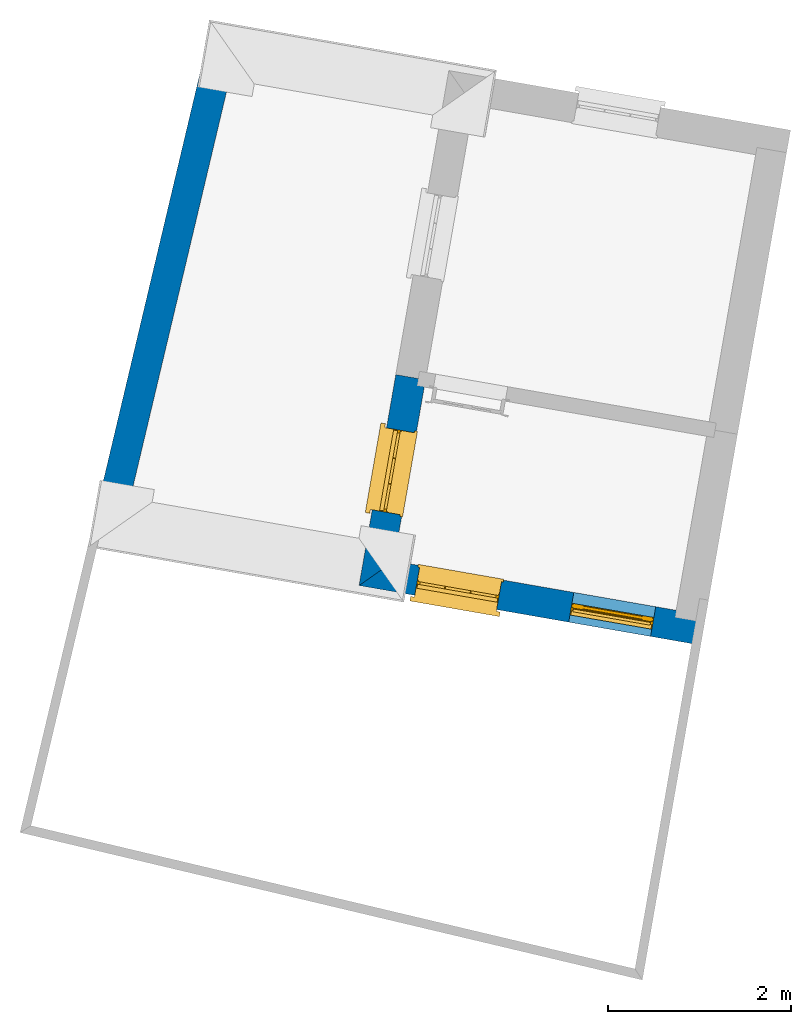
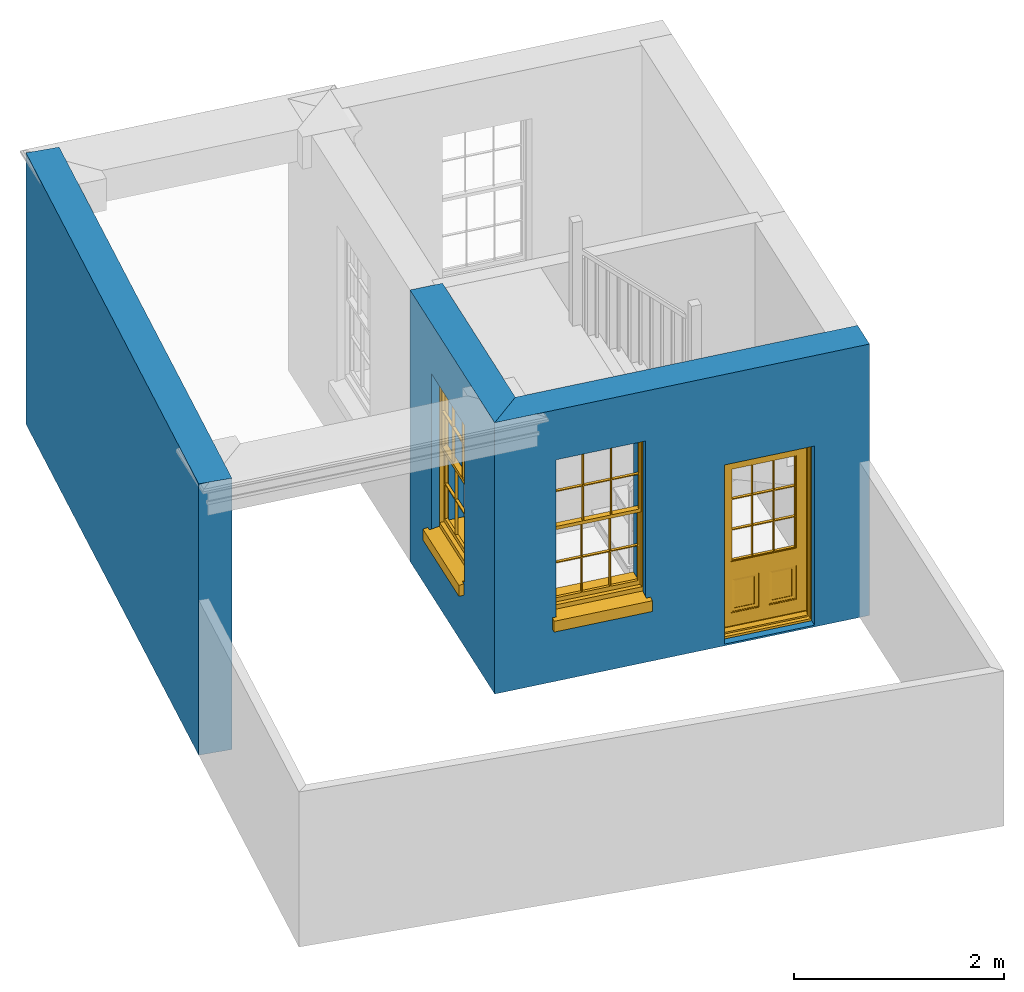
# One storey, part 2 of 4: 3 walls, 2 windows, 1 door, 3 openings.
"""IFC4 building model written with IfcOpenShell, lengths in metres."""

from ifc_helpers import new_model, si_unit, frame, origin, origin_with_axes, place, context, subcontext, project, spatial, polyline, outline, extrude, faceted_brep, source, transform, mapped, material, layer, layer_set, layer_usage, type_object, type_shapes, element, fill, save


model = new_model("IFC4")

# Units and contexts
model_context = context("Model", 3, world=origin_with_axes())
body_context = subcontext(model_context, "Body", "Model", "MODEL_VIEW")
ifc_project = project(units=[si_unit("PLANEANGLEUNIT", "RADIAN"), si_unit("MASSUNIT", "GRAM", prefix="KILO"), si_unit("FORCEUNIT", "NEWTON", prefix="KILO"), si_unit("LENGTHUNIT", "METRE"), si_unit("AREAUNIT", "SQUARE_METRE"), si_unit("VOLUMEUNIT", "CUBIC_METRE")], contexts=[model_context, model_context])

# Sites, building, storey
site_1_placement = place(None, origin_with_axes())
site_1 = spatial("IfcSite", under=ifc_project, at=site_1_placement, Name="Tamar")
site_2_placement = place(site_1_placement, origin_with_axes())
site_2 = spatial("IfcSite", under=site_1, at=site_2_placement, Name="Site plot-26", CompositionType="ELEMENT")
building_placement = place(None, origin_with_axes())
building = spatial("IfcBuilding", under=site_2, at=building_placement, Name="Building plot-26", CompositionType="ELEMENT")
storey_placement = place(None, frame((0.0, 0.0, 26.0), z_axis=(0.0, 0.0, 1.0), x_axis=(1.0, 0.0, 0.0)))
storey = spatial("IfcBuildingStorey", under=building, at=storey_placement, Name="plot-26 0", CompositionType="ELEMENT", Elevation=26.0)

# Wall, opening, window
ifc_material_1 = material(Name="Masonry")
ifc_layer_1 = layer(ifc_material_1, 0.33, ventilated=False)
ifc_layer_set_1 = layer_set([ifc_layer_1], Name="exterior_0.08_0.25")
ifc_layer_usage_1 = layer_usage(ifc_layer_set_1, "AXIS2", "POSITIVE", -0.25)
wall_type_1 = type_object("IfcWallType", Name="exterior_0.08_0.25", PredefinedType="SOLIDWALL", material=ifc_layer_set_1)
wall_1_placement = place(storey_placement, frame((287.813762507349, 272.910504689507, 0.0), z_axis=(0.0, 0.0, 1.0), x_axis=(-0.171788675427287, -0.985133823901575, 0.0)))
wall_1 = element("IfcWall", 1, at=wall_1_placement, inside=storey, type_object=wall_type_1, material=ifc_layer_usage_1, Name="exterior", context=body_context, shape_type="SweptSolid", body=[
    extrude(outline(polyline([(4.07704572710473e-14, 0.0800000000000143), (-1.01903165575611e-13, -0.250000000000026), (2.34387961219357, -0.250000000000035), (2.01387961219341, 0.0799999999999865), (4.07704572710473e-14, 0.0800000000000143)])), origin_with_axes(), (0.0, 0.0, 1.0), 3.15),
])
opening_1_placement = place(wall_1_placement, frame((0.591939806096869, 0.0, 0.75)))
opening_1 = element("IfcOpeningElement", 2, at=opening_1_placement, cuts=wall_1, Name="My Opening", ObjectType="Opening", context=body_context, shape_type="SweptSolid", body=[
    extrude(outline(polyline([(0.0, -0.270000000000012), (0.910000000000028, -0.269999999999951), (0.910000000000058, 1.09999999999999), (2.99760216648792e-14, 1.09999999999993), (0.0, -0.270000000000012)])), origin_with_axes(), (0.0, 0.0, 1.0), 1.82),
])
window_type = type_object("IfcWindowType", Name="sash_big", PartitioningType="DOUBLE_PANEL_HORIZONTAL", PredefinedType="NOTDEFINED")
shared_shape_1 = source(origin(), body_context, "Body", "Brep", [
    faceted_brep([(0.033125, 0.145, 0.975209), (0.01, 0.145, 0.975209), (0.033125, 0.145, 1.376042), (0.876875, 0.145, 0.975209), (0.876875, 0.145, 1.376042), (0.9, 0.145, 0.975209), (0.876875, 0.145, 1.386042), (0.876875, 0.145, 1.786875), (0.9, 0.145, 1.81), (0.033125, 0.145, 1.786875), (0.033125, 0.145, 1.386042), (0.01, 0.145, 1.81), (0.876875, 0.115, 1.376042), (0.876875, 0.115, 0.975209), (0.9, 0.115, 0.937083), (0.033125, 0.115, 1.786875), (0.01, 0.115, 1.81), (0.033125, 0.115, 1.386042), (0.01, 0.115, 0.937083), (0.033125, 0.115, 0.975209), (0.033125, 0.115, 1.376042), (0.876875, 0.115, 1.786875), (0.876875, 0.115, 1.386042), (0.9, 0.115, 1.81), (0.033125, 0.145, 0.937083), (0.01, 0.145, 0.937083), (0.033125, 0.145, 0.53625), (0.876875, 0.145, 0.937083), (0.876875, 0.145, 0.53625), (0.9, 0.145, 0.937083), (0.876875, 0.145, 0.52625), (0.876875, 0.145, 0.125417), (0.9, 0.145, 0.077167), (0.033125, 0.145, 0.125417), (0.033125, 0.145, 0.52625), (0.01, 0.145, 0.077167), (-0.0425, 0.0, 0.01), (-0.0425, -0.05, 0.001667), (0.0, 0.0, 0.01), (0.9525, 0.0, 0.01), (0.91, 0.0, 0.01), (0.9525, -0.05, 0.001667), (-0.02, 0.33, 0.077167), (0.0, 0.33, 0.077167), (-0.02, 0.36, 0.077167), (0.0, 0.19, 0.077167), (0.01, 0.19, 0.077167), (0.91, 0.19, 0.077167), (0.91, 0.33, 0.077167), (0.9, 0.19, 0.077167), (0.93, 0.33, 0.077167), (0.93, 0.36, 0.077167), (0.01, 0.175, 0.975209), (0.9, 0.175, 0.975209), (0.876875, 0.175, 0.125417), (0.876875, 0.175, 0.52625), (0.9, 0.175, 0.077167), (0.876875, 0.175, 0.53625), (0.876875, 0.175, 0.937083), (0.033125, 0.175, 0.125417), (0.01, 0.175, 0.077167), (0.033125, 0.175, 0.52625), (0.033125, 0.175, 0.937083), (0.033125, 0.175, 0.53625), (-0.02, 0.33, 0.052167), (-0.02, 0.36, 0.052167), (0.93, 0.36, 0.052167), (0.93, 0.33, 0.052167), (0.91, 0.33, 0.052167), (0.0, 0.33, 0.052167), (0.91, 0.1, 0.026667), (0.0, 0.1, 0.026667), (-0.0425, -0.05, -0.123333), (0.9525, -0.05, -0.123333), (-0.0425, 0.0, -0.123333), (0.9525, 0.0, -0.123333), (0.01, 0.19, 1.81), (0.9, 0.19, 1.81), (0.0, 0.19, 1.82), (0.91, 0.19, 1.82), (0.01, 0.1, 0.077167), (0.9, 0.1, 0.077167), (0.592292, 0.145, 0.125417), (0.592292, 0.175, 0.125417), (0.317708, 0.175, 0.125417), (0.317708, 0.145, 0.125417), (0.592292, 0.145, 0.53625), (0.317708, 0.145, 0.53625), (0.317708, 0.145, 0.52625), (0.592292, 0.145, 0.52625), (0.592292, 0.175, 0.53625), (0.317708, 0.175, 0.53625), (0.592292, 0.115, 1.386042), (0.592292, 0.145, 1.386042), (0.317708, 0.145, 1.386042), (0.317708, 0.115, 1.386042), (0.317708, 0.115, 1.376042), (0.592292, 0.115, 1.376042), (0.317708, 0.145, 1.376042), (0.592292, 0.145, 1.376042), (0.602292, 0.115, 1.376042), (0.592292, 0.115, 0.975209), (0.602292, 0.115, 0.975209), (0.602292, 0.145, 0.975209), (0.592292, 0.145, 0.975209), (0.602292, 0.145, 1.376042), (0.602292, 0.175, 0.53625), (0.602292, 0.145, 0.53625), (0.317708, 0.175, 0.52625), (0.307708, 0.175, 0.125417), (0.307708, 0.175, 0.52625), (0.602292, 0.175, 0.52625), (0.602292, 0.175, 0.125417), (0.592292, 0.175, 0.52625), (0.307708, 0.175, 0.53625), (0.317708, 0.175, 0.937083), (0.307708, 0.175, 0.937083), (0.602292, 0.175, 0.937083), (0.592292, 0.175, 0.937083), (0.307708, 0.145, 0.52625), (0.307708, 0.145, 0.125417), (0.307708, 0.145, 0.53625), (0.307708, 0.145, 0.937083), (0.592292, 0.145, 0.937083), (0.317708, 0.145, 0.937083), (0.602292, 0.145, 0.937083), (0.602292, 0.145, 0.52625), (0.602292, 0.145, 0.125417), (0.307708, 0.115, 1.386042), (0.307708, 0.115, 1.376042), (0.307708, 0.115, 0.975209), (0.317708, 0.115, 0.975209), (0.317708, 0.115, 1.786875), (0.307708, 0.115, 1.786875), (0.602292, 0.115, 1.786875), (0.592292, 0.115, 1.786875), (0.602292, 0.115, 1.386042), (0.602292, 0.145, 1.386042), (0.307708, 0.145, 1.386042), (0.307708, 0.145, 1.786875), (0.317708, 0.145, 1.786875), (0.592292, 0.145, 1.786875), (0.602292, 0.145, 1.786875), (0.307708, 0.145, 1.376042), (0.317708, 0.145, 0.975209), (0.307708, 0.145, 0.975209), (0.91, 0.1, 1.82), (0.9, 0.1, 1.81), (0.01, 0.1, 1.81), (0.0, 0.1, 1.82), (0.91, 0.0, 0.0), (0.0, 0.0, 0.0), (0.91, 0.33, 0.0), (0.0, 0.33, 0.0)], [[[0, 1, 2]], [[3, 4, 5]], [[6, 7, 8]], [[9, 10, 11]], [[12, 13, 14]], [[15, 16, 17]], [[18, 19, 20]], [[21, 22, 23]], [[24, 25, 26]], [[27, 28, 29]], [[30, 31, 32]], [[33, 34, 35]], [[14, 27, 29]], [[25, 24, 18]], [[36, 37, 38]], [[39, 40, 41]], [[42, 43, 44]], [[45, 46, 43]], [[47, 48, 49]], [[50, 51, 48]], [[1, 0, 52]], [[5, 53, 3]], [[54, 55, 56]], [[57, 58, 53]], [[59, 60, 61]], [[62, 63, 52]], [[48, 43, 46, 49]], [[51, 44, 43, 48]], [[64, 42, 44, 65]], [[65, 44, 51, 66]], [[66, 51, 50, 67]], [[65, 66, 68, 69]], [[60, 56, 49, 46]], [[70, 71, 38, 40]], [[37, 41, 40, 38]], [[37, 72, 73, 41]], [[74, 75, 73, 72]], [[8, 11, 76, 77]], [[76, 78, 79, 77]], [[32, 35, 80, 81]], [[81, 80, 71, 70]], [[82, 83, 84, 85]], [[86, 87, 88, 89]], [[86, 90, 91, 87]], [[92, 93, 94, 95]], [[92, 95, 96, 97]], [[96, 98, 99, 97]], [[100, 97, 101, 102]], [[103, 104, 99, 105]], [[97, 99, 104, 101]], [[102, 103, 105, 100]], [[28, 57, 106, 107]], [[108, 84, 109, 110]], [[111, 112, 83, 113]], [[114, 110, 61, 63]], [[90, 113, 108, 91]], [[115, 91, 114, 116]], [[117, 106, 90, 118]], [[111, 106, 57, 55]], [[119, 110, 109, 120]], [[34, 61, 110, 119]], [[89, 113, 83, 82]], [[88, 108, 113, 89]], [[85, 84, 108, 88]], [[121, 114, 63, 26]], [[122, 116, 114, 121]], [[123, 118, 90, 86]], [[87, 91, 115, 124]], [[107, 106, 117, 125]], [[126, 111, 55, 30]], [[127, 112, 111, 126]], [[126, 30, 28, 107]], [[88, 119, 120, 85]], [[126, 89, 82, 127]], [[125, 123, 86, 107]], [[121, 26, 34, 119]], [[124, 122, 121, 87]], [[128, 17, 20, 129]], [[96, 129, 130, 131]], [[132, 133, 128, 95]], [[134, 135, 92, 136]], [[100, 12, 22, 136]], [[137, 6, 4, 105]], [[94, 138, 139, 140]], [[137, 93, 141, 142]], [[99, 98, 94, 93]], [[143, 2, 10, 138]], [[144, 145, 143, 98]], [[129, 143, 145, 130]], [[20, 2, 143, 129]], [[131, 144, 98, 96]], [[128, 138, 10, 17]], [[133, 139, 138, 128]], [[135, 141, 93, 92]], [[95, 94, 140, 132]], [[22, 6, 137, 136]], [[136, 137, 142, 134]], [[100, 105, 4, 12]], [[107, 86, 89, 126]], [[106, 111, 113, 90]], [[91, 108, 110, 114]], [[87, 121, 119, 88]], [[97, 100, 136, 92]], [[129, 96, 95, 128]], [[98, 143, 138, 94]], [[105, 99, 93, 137]], [[131, 101, 104, 144]], [[124, 115, 118, 123]], [[132, 140, 141, 135]], [[120, 109, 59, 33]], [[15, 9, 139, 133]], [[134, 142, 7, 21]], [[31, 54, 112, 127]], [[36, 74, 72, 37]], [[39, 41, 73, 75]], [[18, 14, 101, 131]], [[23, 16, 132, 135]], [[83, 56, 60, 84]], [[52, 53, 118, 115]], [[53, 52, 144, 104]], [[11, 8, 141, 140]], [[14, 18, 124, 123]], [[2, 1, 11, 10]], [[8, 5, 4, 6]], [[57, 53, 56, 55]], [[60, 52, 63, 61]], [[26, 25, 35, 34]], [[32, 29, 28, 30]], [[14, 23, 22, 12]], [[18, 20, 17, 16]], [[19, 0, 2, 20]], [[17, 10, 9, 15]], [[12, 4, 3, 13]], [[21, 7, 6, 22]], [[27, 58, 57, 28]], [[30, 55, 54, 31]], [[33, 59, 61, 34]], [[26, 63, 62, 24]], [[5, 8, 77, 53]], [[76, 11, 1, 52]], [[46, 45, 78, 76]], [[49, 77, 79, 47]], [[70, 146, 147, 81]], [[71, 80, 148, 149]], [[19, 130, 145, 0]], [[102, 13, 3, 103]], [[116, 122, 24, 62]], [[29, 32, 81, 14]], [[80, 35, 25, 18]], [[60, 46, 76, 52]], [[77, 49, 56, 53]], [[23, 14, 81, 147]], [[16, 148, 80, 18]], [[35, 85, 120]], [[120, 33, 35]], [[127, 82, 32]], [[32, 31, 127]], [[32, 82, 85, 35]], [[102, 101, 14]], [[14, 13, 102]], [[18, 131, 130]], [[130, 19, 18]], [[134, 21, 23]], [[23, 135, 134]], [[16, 15, 133]], [[133, 132, 16]], [[11, 140, 139]], [[139, 9, 11]], [[142, 141, 8]], [[8, 7, 142]], [[23, 147, 148, 16]], [[146, 149, 148, 147]], [[52, 115, 116]], [[116, 62, 52]], [[118, 53, 117]], [[58, 117, 53]], [[27, 125, 117, 58]], [[56, 83, 112]], [[112, 54, 56]], [[109, 84, 60]], [[60, 59, 109]], [[125, 27, 14]], [[14, 123, 125]], [[122, 124, 18]], [[18, 24, 122]], [[145, 144, 52]], [[52, 0, 145]], [[103, 3, 53]], [[53, 104, 103]], [[79, 78, 149, 146]], [[78, 45, 71, 149]], [[146, 70, 47, 79]], [[150, 75, 74, 151]], [[68, 66, 67]], [[48, 68, 67, 50]], [[69, 64, 65]], [[42, 64, 69, 43]], [[69, 68, 152, 153]], [[70, 68, 48, 47]], [[150, 152, 68, 70]], [[43, 69, 71, 45]], [[69, 153, 151, 71]], [[152, 150, 151, 153]], [[38, 151, 74, 36]], [[71, 151, 38]], [[39, 75, 150, 40]], [[40, 150, 70]]]),
])
type_shapes(window_type, [shared_shape_1])
window_1_placement = place(storey_placement, frame((287.446087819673, 272.373747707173, 0.75), z_axis=(0.0, 0.0, 1.0), x_axis=(-0.156327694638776, -0.89647177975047, 0.0)))
window_1 = element("IfcWindow", 3, at=window_1_placement, inside=storey, type_object=window_type, Name="circulation outside window", OverallHeight=1.82, OverallWidth=0.91, context=body_context, shape_type="MappedRepresentation", body=[
    mapped(shared_shape_1, transform((0.0, 0.0, 0.0), scale=1.0)),
])
fill(opening_1, window_1)

# Wall, openings, door, window
wall_2_placement = place(storey_placement, frame((287.454057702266, 270.847753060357, 0.0), z_axis=(0.0, 0.0, 1.0), x_axis=(0.985133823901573, -0.171788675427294, 0.0)))
wall_2 = element("IfcWall", 4, at=wall_2_placement, inside=storey, type_object=wall_type_1, material=ifc_layer_usage_1, Name="exterior", context=body_context, shape_type="SweptSolid", body=[
    extrude(outline(polyline([(0.0799999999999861, 0.0800000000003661), (-0.250000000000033, -0.249999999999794), (3.54617851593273, -0.249999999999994), (3.5461785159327, 0.0800000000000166), (0.0799999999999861, 0.0800000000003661)])), origin_with_axes(), (0.0, 0.0, 1.0), 3.15),
])
opening_2_placement = place(wall_2_placement, frame((0.369044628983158, 0.0, 0.75)))
opening_2 = element("IfcOpeningElement", 5, at=opening_2_placement, cuts=wall_2, Name="My Opening", ObjectType="Opening", context=body_context, shape_type="SweptSolid", body=[
    extrude(outline(polyline([(0.0, -0.270000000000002), (0.910000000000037, -0.26999999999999), (0.910000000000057, 1.09999999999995), (1.95399252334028e-14, 1.09999999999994), (0.0, -0.270000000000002)])), origin_with_axes(), (0.0, 0.0, 1.0), 1.82),
])
opening_3_placement = place(wall_2_placement, frame((2.07904462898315, 0.0, 0.0199999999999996)))
opening_3 = element("IfcOpeningElement", 6, at=opening_3_placement, cuts=wall_2, Name="My Opening", ObjectType="Opening", context=body_context, shape_type="SweptSolid", body=[
    extrude(outline(polyline([(0.0, -0.269999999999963), (0.910000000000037, -0.269999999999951), (0.910000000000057, 1.09999999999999), (1.95399252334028e-14, 1.09999999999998), (0.0, -0.269999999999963)])), origin_with_axes(), (0.0, 0.0, 1.0), 2.08),
])
door_type = type_object("IfcDoorType", Name="door_panelled", OperationType="SINGLE_SWING_LEFT", PredefinedType="NOTDEFINED")
shared_shape_2 = source(origin(), body_context, "Body", "Brep", [
    faceted_brep([(0.545, 0.195, 0.265), (0.745, 0.195, 0.265), (0.745, 0.2, 0.265), (0.545, 0.2, 0.265), (0.745, 0.2, 0.58), (0.545, 0.2, 0.58), (0.545, 0.195, 0.58), (0.515, 0.19, 0.235), (0.775, 0.19, 0.235), (0.745, 0.195, 0.58), (0.515, 0.19, 0.61), (0.515, 0.185, 0.235), (0.775, 0.185, 0.235), (0.775, 0.19, 0.61), (0.515, 0.185, 0.61), (0.785, 0.185, 0.225), (0.505, 0.185, 0.225), (0.775, 0.185, 0.61), (0.505, 0.185, 0.62), (0.785, 0.185, 0.62), (0.505, 0.18, 0.225), (0.785, 0.18, 0.225), (0.505, 0.18, 0.62), (0.785, 0.18, 0.62), (0.883, 0.18, 0.075), (0.898, 0.18, 0.075), (0.405, 0.18, 0.62), (0.405, 0.18, 0.225), (0.027, 0.18, 0.075), (0.785, 0.18, 0.82), (0.125, 0.18, 0.82), (0.405, 0.185, 0.62), (0.405, 0.185, 0.225), (0.898, 0.18, 2.068), (0.027, 0.17, 0.075), (0.883, 0.17, 0.075), (0.125, 0.18, 0.225), (0.012, 0.18, 0.075), (0.785, 0.19, 0.82), (0.125, 0.19, 0.82), (0.125, 0.18, 0.62), (0.125, 0.185, 0.62), (0.395, 0.185, 0.61), (0.395, 0.185, 0.235), (0.125, 0.185, 0.225), (0.785, 0.18, 1.895), (0.027, 0.14, 0.045), (0.883, 0.14, 0.045), (0.558333, 0.19, 0.83), (0.351667, 0.19, 0.83), (0.125, 0.18, 1.895), (0.125, 0.19, 1.895), (0.785, 0.19, 1.895), (0.012, 0.18, 2.068), (0.135, 0.185, 0.61), (0.395, 0.19, 0.61), (0.395, 0.19, 0.235), (0.135, 0.185, 0.235), (0.027, 0.14, 0.027), (0.883, 0.14, 0.027), (0.568333, 0.19, 0.83), (0.558333, 0.22, 0.83), (0.351667, 0.22, 0.83), (0.341667, 0.19, 0.83), (0.135, 0.19, 1.185), (0.135, 0.19, 1.53), (0.775, 0.19, 1.53), (0.775, 0.19, 1.185), (0.135, 0.19, 0.61), (0.365, 0.195, 0.58), (0.365, 0.195, 0.265), (0.135, 0.19, 0.235), (0.568333, 0.19, 1.175), (0.558333, 0.19, 1.175), (0.775, 0.19, 0.83), (0.558333, 0.22, 1.175), (0.785, 0.22, 0.82), (0.125, 0.22, 0.82), (0.351667, 0.22, 1.175), (0.351667, 0.19, 1.175), (0.341667, 0.19, 1.175), (0.135, 0.19, 0.83), (0.135, 0.19, 1.175), (0.135, 0.22, 1.185), (0.135, 0.22, 1.53), (0.135, 0.19, 1.54), (0.351667, 0.19, 1.885), (0.558333, 0.19, 1.885), (0.775, 0.22, 1.53), (0.775, 0.22, 1.185), (0.775, 0.19, 1.175), (0.775, 0.19, 1.54), (0.165, 0.195, 0.58), (0.365, 0.2, 0.58), (0.365, 0.2, 0.265), (0.165, 0.195, 0.265), (0.568333, 0.22, 0.83), (0.568333, 0.22, 1.175), (0.568333, 0.19, 1.185), (0.558333, 0.19, 1.185), (0.775, 0.22, 0.83), (0.785, 0.23, 0.82), (0.125, 0.23, 0.82), (0.341667, 0.22, 0.83), (0.341667, 0.22, 1.175), (0.351667, 0.19, 1.185), (0.341667, 0.19, 1.185), (0.135, 0.22, 0.83), (0.341667, 0.22, 1.185), (0.125, 0.22, 1.895), (0.341667, 0.22, 1.53), (0.341667, 0.19, 1.53), (0.135, 0.19, 1.885), (0.341667, 0.19, 1.54), (0.341667, 0.19, 1.885), (0.558333, 0.22, 1.885), (0.351667, 0.22, 1.885), (0.568333, 0.19, 1.885), (0.785, 0.22, 1.895), (0.568333, 0.22, 1.185), (0.568333, 0.19, 1.53), (0.568333, 0.22, 1.53), (0.568333, 0.19, 1.54), (0.775, 0.19, 1.885), (0.165, 0.2, 0.58), (0.165, 0.2, 0.265), (0.775, 0.22, 1.175), (0.558333, 0.19, 1.53), (0.351667, 0.22, 1.185), (0.558333, 0.22, 1.185), (0.505, 0.23, 0.62), (0.405, 0.23, 0.62), (0.125, 0.23, 1.895), (0.785, 0.23, 1.895), (0.351667, 0.19, 1.53), (0.135, 0.22, 1.175), (0.135, 0.22, 1.54), (0.341667, 0.22, 1.54), (0.135, 0.22, 1.885), (0.351667, 0.19, 1.54), (0.558333, 0.22, 1.54), (0.558333, 0.19, 1.54), (0.351667, 0.22, 1.54), (0.775, 0.22, 1.54), (0.568333, 0.22, 1.54), (0.775, 0.22, 1.885), (0.558333, 0.22, 1.53), (0.405, 0.23, 0.225), (0.505, 0.23, 0.225), (0.125, 0.23, 0.62), (0.785, 0.23, 0.62), (0.012, 0.23, 2.068), (0.898, 0.23, 2.068), (0.351667, 0.22, 1.53), (0.341667, 0.22, 1.885), (0.568333, 0.22, 1.885), (0.405, 0.225, 0.225), (0.405, 0.225, 0.62), (0.505, 0.225, 0.62), (0.505, 0.225, 0.225), (0.898, 0.23, 0.027), (0.012, 0.23, 0.027), (0.125, 0.225, 0.62), (0.785, 0.225, 0.62), (0.395, 0.225, 0.235), (0.395, 0.225, 0.61), (0.125, 0.23, 0.225), (0.125, 0.225, 0.225), (0.515, 0.225, 0.61), (0.515, 0.225, 0.235), (0.785, 0.23, 0.225), (0.785, 0.225, 0.225), (0.135, 0.225, 0.61), (0.775, 0.225, 0.61), (0.135, 0.225, 0.235), (0.395, 0.22, 0.235), (0.395, 0.22, 0.61), (0.515, 0.22, 0.61), (0.515, 0.22, 0.235), (0.775, 0.225, 0.235), (0.135, 0.22, 0.61), (0.775, 0.22, 0.61), (0.135, 0.22, 0.235), (0.365, 0.215, 0.265), (0.365, 0.215, 0.58), (0.545, 0.215, 0.58), (0.545, 0.215, 0.265), (0.775, 0.22, 0.235), (0.165, 0.215, 0.58), (0.745, 0.215, 0.58), (0.165, 0.215, 0.265), (0.365, 0.21, 0.58), (0.365, 0.21, 0.265), (0.545, 0.21, 0.58), (0.545, 0.21, 0.265), (0.745, 0.215, 0.265), (0.165, 0.21, 0.58), (0.745, 0.21, 0.58), (0.165, 0.21, 0.265), (0.745, 0.21, 0.265), (0.885, 0.178, 0.025), (0.025, 0.178, 0.025), (0.025, 0.15, 0.025), (0.885, 0.15, 0.025), (0.9, 0.23, 0.025), (0.01, 0.23, 0.025), (0.9, 0.178, 0.025), (0.91, 0.23, 0.0), (0.0, 0.23, 0.0), (0.01, 0.178, 0.025), (0.9, 0.178, 2.07), (0.9, 0.23, 2.07), (0.885, 0.178, 2.055), (0.91, 0.23, 2.08), (0.01, 0.23, 2.07), (0.0, 0.23, 2.08), (0.01, 0.178, 2.07), (0.025, 0.178, 2.055), (0.0, 0.1, 2.08), (0.91, 0.1, 2.08), (0.01, 0.1, 2.07), (0.9, 0.1, 2.07), (0.01, 0.15, 2.07), (0.9, 0.15, 2.07), (0.0, 0.1, 0.0), (0.91, 0.1, 0.0), (0.01, 0.1, 0.025), (0.9, 0.1, 0.025), (0.01, 0.15, 0.025), (0.025, 0.15, 2.055), (0.9, 0.15, 0.025), (0.885, 0.15, 2.055), (0.898, 0.18, 0.027), (0.012, 0.18, 0.027), (0.883, 0.18, 0.027), (0.027, 0.18, 0.027)], [[[0, 1, 2, 3]], [[2, 4, 5, 3]], [[0, 3, 5, 6]], [[1, 0, 7, 8]], [[9, 4, 2, 1]], [[9, 6, 5, 4]], [[0, 6, 10, 7]], [[8, 7, 11, 12]], [[8, 13, 9, 1]], [[13, 10, 6, 9]], [[7, 10, 14, 11]], [[15, 12, 11, 16]], [[12, 17, 13, 8]], [[17, 14, 10, 13]], [[18, 16, 11, 14]], [[15, 19, 17, 12]], [[15, 16, 20, 21]], [[14, 17, 19, 18]], [[16, 18, 22, 20]], [[21, 23, 19, 15]], [[24, 25, 21, 20]], [[23, 22, 18, 19]], [[20, 22, 26, 27]], [[23, 21, 25]], [[28, 24, 20, 27]], [[22, 23, 29]], [[29, 30, 26, 22]], [[27, 26, 31, 32]], [[23, 25, 33, 29]], [[34, 35, 24, 28]], [[28, 27, 36, 37]], [[38, 39, 30, 29]], [[26, 30, 40]], [[26, 40, 41, 31]], [[42, 43, 32, 31]], [[32, 44, 36, 27]], [[33, 45, 29]], [[46, 47, 35, 34]], [[36, 40, 37]], [[39, 38, 48, 49]], [[50, 30, 39, 51]], [[29, 45, 52, 38]], [[53, 37, 40, 30]], [[44, 41, 40, 36]], [[31, 41, 54, 42]], [[43, 42, 55, 56]], [[57, 44, 32, 43]], [[50, 45, 33, 53]], [[47, 46, 58, 59]], [[60, 48, 38]], [[49, 48, 61, 62]], [[49, 63, 39]], [[50, 53, 30]], [[51, 39, 64, 65]], [[45, 50, 51, 52]], [[66, 67, 38, 52]], [[57, 54, 41, 44]], [[42, 54, 68, 55]], [[56, 55, 69, 70]], [[56, 71, 57, 43]], [[60, 72, 73, 48]], [[60, 38, 74]], [[48, 73, 75, 61]], [[76, 77, 62, 61]], [[62, 78, 79, 49]], [[49, 79, 80, 63]], [[63, 81, 39]], [[82, 64, 39]], [[65, 64, 83, 84]], [[85, 51, 65]], [[52, 51, 86, 87]], [[88, 89, 67, 66]], [[90, 38, 67]], [[91, 66, 52]], [[71, 68, 54, 57]], [[55, 68, 92, 69]], [[69, 93, 94, 70]], [[70, 95, 71, 56]], [[96, 97, 72, 60]], [[73, 72, 98, 99]], [[74, 38, 90]], [[100, 96, 60, 74]], [[75, 73, 79, 78]], [[61, 75, 97, 96]], [[101, 102, 77, 76]], [[77, 103, 62]], [[96, 76, 61]], [[103, 104, 78, 62]], [[80, 79, 105, 106]], [[63, 80, 104, 103]], [[81, 63, 103, 107]], [[81, 82, 39]], [[106, 64, 82, 80]], [[106, 108, 83, 64]], [[84, 83, 77, 109]], [[110, 111, 65, 84]], [[112, 51, 85]], [[113, 85, 65, 111]], [[114, 86, 51]], [[115, 87, 86, 116]], [[117, 52, 87]], [[118, 76, 89, 88]], [[119, 98, 67, 89]], [[120, 121, 88, 66]], [[67, 98, 72, 90]], [[91, 122, 120, 66]], [[91, 52, 123]], [[95, 92, 68, 71]], [[69, 92, 124, 93]], [[94, 93, 124, 125]], [[94, 125, 95, 70]], [[72, 97, 126, 90]], [[127, 99, 98, 120]], [[99, 105, 79, 73]], [[74, 90, 126, 100]], [[96, 100, 76]], [[128, 129, 75, 78]], [[97, 75, 129, 119]], [[130, 131, 102, 101]], [[109, 77, 102, 132]], [[133, 101, 76, 118]], [[77, 107, 103]], [[78, 104, 108, 128]], [[111, 106, 105, 134]], [[104, 80, 82, 135]], [[107, 135, 82, 81]], [[110, 108, 106, 111]], [[104, 135, 83, 108]], [[83, 135, 77]], [[136, 84, 109]], [[110, 84, 136, 137]], [[114, 51, 112]], [[85, 136, 138, 112]], [[113, 137, 136, 85]], [[111, 134, 139, 113]], [[86, 114, 113, 139]], [[140, 141, 87, 115]], [[139, 142, 116, 86]], [[109, 118, 115, 116]], [[117, 123, 52]], [[117, 87, 141, 122]], [[126, 89, 76]], [[143, 118, 88]], [[120, 98, 119, 121]], [[119, 89, 126, 97]], [[144, 143, 88, 121]], [[144, 122, 91, 143]], [[127, 120, 122, 141]], [[143, 91, 123, 145]], [[124, 92, 95, 125]], [[146, 129, 99, 127]], [[99, 129, 128, 105]], [[100, 126, 76]], [[121, 119, 129, 146]], [[147, 131, 130, 148]], [[131, 149, 102]], [[130, 101, 150]], [[102, 151, 132]], [[118, 109, 132, 133]], [[101, 133, 152]], [[107, 77, 135]], [[153, 128, 108, 110]], [[134, 105, 128, 153]], [[109, 138, 136]], [[153, 110, 137, 142]], [[154, 114, 112, 138]], [[137, 113, 114, 154]], [[141, 139, 134, 127]], [[141, 140, 142, 139]], [[144, 140, 115, 155]], [[142, 137, 154, 116]], [[155, 115, 118]], [[116, 154, 109]], [[117, 155, 145, 123]], [[122, 144, 155, 117]], [[143, 145, 118]], [[121, 146, 140, 144]], [[146, 127, 134, 153]], [[156, 157, 131, 147]], [[148, 130, 158, 159]], [[148, 160, 161, 147]], [[157, 162, 149, 131]], [[161, 151, 102, 149]], [[101, 152, 160, 150]], [[163, 158, 130, 150]], [[151, 152, 133, 132]], [[154, 138, 109]], [[142, 140, 146, 153]], [[145, 155, 118]], [[157, 156, 164, 165]], [[147, 166, 167, 156]], [[168, 169, 159, 158]], [[170, 148, 159, 171]], [[148, 170, 160]], [[166, 147, 161]], [[172, 162, 157, 165]], [[166, 149, 162, 167]], [[166, 161, 149]], [[150, 160, 170]], [[163, 173, 168, 158]], [[171, 163, 150, 170]], [[174, 164, 156, 167]], [[175, 176, 165, 164]], [[169, 168, 177, 178]], [[171, 159, 169, 179]], [[167, 162, 172, 174]], [[176, 180, 172, 165]], [[179, 173, 163, 171]], [[181, 177, 168, 173]], [[164, 174, 182, 175]], [[183, 184, 176, 175]], [[178, 177, 185, 186]], [[179, 169, 178, 187]], [[174, 172, 180, 182]], [[184, 188, 180, 176]], [[187, 181, 173, 179]], [[189, 185, 177, 181]], [[175, 182, 190, 183]], [[191, 184, 183, 192]], [[185, 193, 194, 186]], [[187, 178, 186, 195]], [[182, 180, 188, 190]], [[191, 196, 188, 184]], [[195, 189, 181, 187]], [[197, 193, 185, 189]], [[183, 190, 198, 192]], [[198, 196, 191, 192]], [[194, 193, 197, 199]], [[195, 186, 194, 199]], [[188, 196, 198, 190]], [[197, 189, 195, 199]], [[200, 201, 202, 203]], [[201, 200, 204, 205]], [[206, 204, 200]], [[204, 207, 208, 205]], [[209, 201, 205]], [[210, 211, 204, 206]], [[206, 200, 212, 210]], [[211, 213, 207, 204]], [[214, 205, 208, 215]], [[216, 217, 201, 209]], [[205, 214, 216, 209]], [[216, 214, 211, 210]], [[210, 212, 217, 216]], [[214, 215, 213, 211]], [[218, 219, 213, 215]], [[219, 218, 220, 221]], [[221, 220, 222, 223]], [[215, 208, 224, 218]], [[225, 224, 208, 207]], [[224, 226, 220, 218]], [[224, 225, 227, 226]], [[219, 225, 207, 213]], [[228, 222, 220, 226]], [[219, 221, 227, 225]], [[226, 227, 203, 202]], [[202, 229, 222, 228]], [[228, 226, 202]], [[227, 221, 223, 230]], [[230, 203, 227]], [[217, 229, 202, 201]], [[231, 223, 222, 229]], [[230, 223, 231, 203]], [[231, 229, 217, 212]], [[212, 200, 203, 231]], [[33, 152, 151, 53]], [[25, 160, 152, 33]], [[161, 37, 53, 151]], [[232, 160, 25]], [[161, 233, 37]], [[160, 232, 234]], [[24, 234, 232, 25]], [[233, 161, 235]], [[37, 233, 235, 28]], [[161, 160, 234, 235]], [[35, 47, 234, 24]], [[28, 235, 46, 34]], [[58, 235, 234, 59]], [[59, 234, 47]], [[58, 46, 235]]]),
])
type_shapes(door_type, [shared_shape_2])
door_placement = place(storey_placement, frame((289.455811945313, 270.224610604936, 0.0199999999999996), z_axis=(0.0, 0.0, 1.0), x_axis=(0.89647177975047, -0.156327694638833, 0.0)))
door = element("IfcDoor", 7, at=door_placement, inside=storey, type_object=door_type, Name="circulation outside door", OverallHeight=2.08, OverallWidth=0.91, context=body_context, shape_type="MappedRepresentation", body=[
    mapped(shared_shape_2, transform((0.0, 0.0, 0.0), scale=1.0)),
])
fill(opening_3, door)
window_2_placement = place(storey_placement, frame((287.771233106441, 270.518369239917, 0.75), z_axis=(0.0, 0.0, 1.0), x_axis=(0.89647177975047, -0.156327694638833, 0.0)))
window_2 = element("IfcWindow", 8, at=window_2_placement, inside=storey, type_object=window_type, Name="circulation outside window", OverallHeight=1.82, OverallWidth=0.91, context=body_context, shape_type="MappedRepresentation", body=[
    mapped(shared_shape_1, transform((0.0, 0.0, 0.0), scale=1.0)),
])
fill(opening_2, window_2)

# Wall
ifc_material_2 = material(Name="Masonry")
ifc_layer_2 = layer(ifc_material_2, 0.33, ventilated=False)
ifc_layer_set_2 = layer_set([ifc_layer_2], Name="party_0.08_0.25")
ifc_layer_usage_2 = layer_usage(ifc_layer_set_2, "AXIS2", "POSITIVE", -0.25)
wall_type_2 = type_object("IfcWallType", Name="party_0.08_0.25", PredefinedType="SOLIDWALL", material=ifc_layer_set_2)
wall_3_placement = place(storey_placement, frame((285.727659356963, 276.44916244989, 0.0), z_axis=(0.0, 0.0, 1.0), x_axis=(-0.230645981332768, -0.973037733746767, 0.0)))
element("IfcWall", 9, at=wall_3_placement, inside=storey, type_object=wall_type_2, material=ifc_layer_usage_2, Name="party", context=body_context, shape_type="SweptSolid", body=[
    extrude(outline(polyline([(-0.250000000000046, 0.0800000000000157), (-0.250000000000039, -0.250000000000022), (5.48100543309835, -0.250000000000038), (5.48100543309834, 0.0800000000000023), (-0.250000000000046, 0.0800000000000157)])), origin_with_axes(), (0.0, 0.0, 1.0), 3.15),
])

save(model, "model.ifc")
